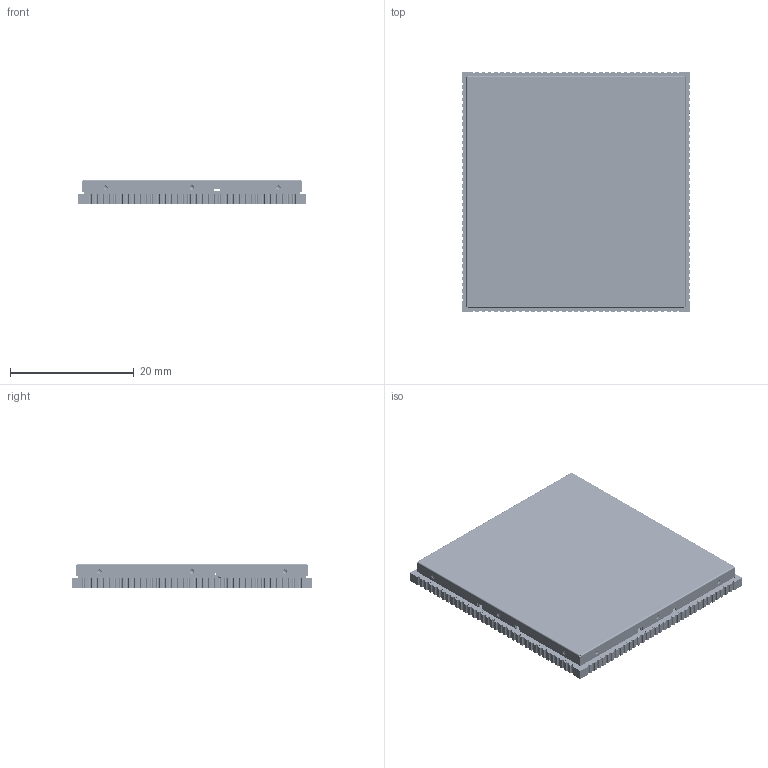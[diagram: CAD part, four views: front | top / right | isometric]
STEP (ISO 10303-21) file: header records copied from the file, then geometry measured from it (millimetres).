
FILE_DESCRIPTION((''),'2;1');
FILE_NAME('MYC-3506_ASM','2025-02-11T09:16:27',('89233'),(''),'CREO PARAMETRIC BY PTC INC, 2023073','CREO PARAMETRIC BY PTC INC, 2023073','');
FILE_SCHEMA(('AUTOMOTIVE_DESIGN { 1 0 10303 214 1 1 1 1 }'));
Products named in the file (52): MYC-3506; 20401-00100; 20401-80101; 20401-80342; 20401-80188; 20401-80445; 20401-00101; 20401-00107; C0402; 20401-00103; 20401-80103; 20401-00104; 20401-00077; 20401-80096; 20401-80346; 20401-80104; 20501-80032; 20301-80394; R0603; 20301-00265; 20301-00202; 20301-00186; 20301-00264; R0402; 20301-00310; 20301-00206; 20301-80390; 20301-00232; 20301-00203; 20301-00187; 20301-00248; 20301-80389; 20301-00195; 20301-80671; 20301-80393; 20301-80444; 20301-00192; 20301-00189; 20301-00306; 20301-00335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
Assembly tree (200 placements, depth 2):
  MYC-3506_ASM
    MYC-3506
    20401-00100  x10
    20401-80101  x4
    20401-80342
    20401-80188  x44
    20401-80445  x2
    20401-00101  x3
    20401-00107  x6
    C0402  x10
    20401-00103  x8
    20401-80103  x2
    20401-00104  x4
    20401-00077  x2
    20401-80096  x11
    20401-80346  x3
    20401-80104
    20501-80032  x4
    20301-80394  x8
    R0603
    20301-00265
    20301-00202
    20301-00186  x16
    20301-00264  x4
    R0402  x15
    20301-00310
    20301-00206
    20301-80390  x2
    20301-00232
    20301-00203
    20301-00187  x5
    20301-00248
    20301-80389
    20301-00195  x2
    20301-80671  x2
    20301-80393
    20301-80444
    20301-00192
    20301-00189  x2
    20301-00306
    20301-00335
    20103-80077  x4
    20102-00156
    20115-80025
    20101-00096
    20102-00083
    20102-00173
    20102-00124
    20901-00030
    MYC-3506-TOP
    MYC-6UL-SHIELD-FRAME-A-V10
    MYC-6UL-SHIELD-COVER-A-V10
Bounding box: 37.03 x 39 x 3.85 mm (x, y, z)
Volume: 3298 mm3; surface area: 9680.1 mm2
Topology: 199 solids, 204 shells, 6441 faces, 27757 edges, 26802 vertices
Faces by surface type: plane 4912, sphere 1212, cylinder 317
Entity records: 248661 total; most frequent: DIRECTION 37387, CARTESIAN_POINT 32453, ORIENTED_EDGE 20560, PRESENTATION_STYLE_ASSIGNMENT 15318, STYLED_ITEM 15302, CURVE_STYLE 14874, AXIS2_PLACEMENT_3D 12612, VECTOR 12007
